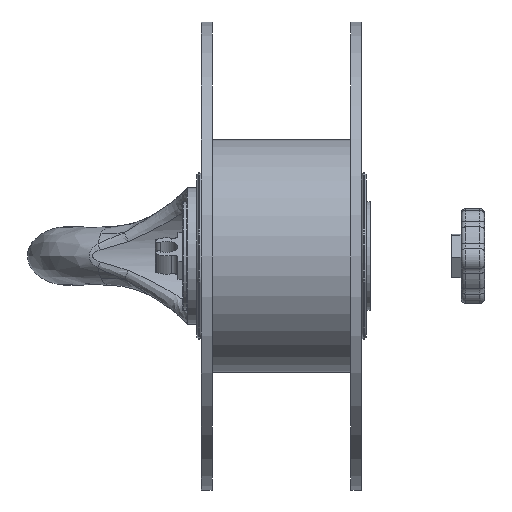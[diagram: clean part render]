
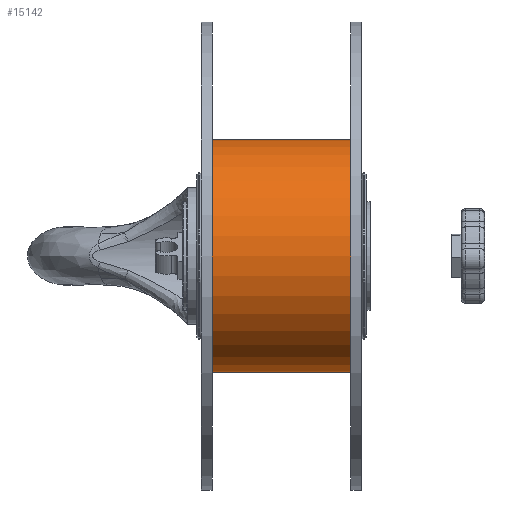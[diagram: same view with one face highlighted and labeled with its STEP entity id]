
A CAD part, front view. The second image highlights one B-rep face of the part: STEP entity #15142.
In plain terms, the highlighted cylindrical face has radius 49.5 mm (diameter 99 mm), a full revolution.
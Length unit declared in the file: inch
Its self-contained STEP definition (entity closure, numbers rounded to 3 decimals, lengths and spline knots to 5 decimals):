
#884=CYLINDRICAL_SURFACE('',#16932,1.94882);
#1947=FACE_OUTER_BOUND('',#2832,.T.);
#2832=EDGE_LOOP('',(#12987,#12988,#12989,#12990));
#3771=LINE('',#30575,#4720);
#4720=VECTOR('',#21000,1.94882);
#5603=CIRCLE('',#16926,1.94882);
#5606=CIRCLE('',#16931,1.94882);
#6896=VERTEX_POINT('',#30563);
#6899=VERTEX_POINT('',#30572);
#8943=EDGE_CURVE('',#6896,#6896,#5603,.T.);
#8947=EDGE_CURVE('',#6899,#6899,#5606,.T.);
#8948=EDGE_CURVE('',#6896,#6899,#3771,.T.);
#12987=ORIENTED_EDGE('',*,*,#8943,.F.);
#12988=ORIENTED_EDGE('',*,*,#8948,.T.);
#12989=ORIENTED_EDGE('',*,*,#8947,.T.);
#12990=ORIENTED_EDGE('',*,*,#8948,.F.);
#15142=ADVANCED_FACE('',(#1947),#884,.T.);
#16926=AXIS2_PLACEMENT_3D('',#30564,#20985,#20986);
#16931=AXIS2_PLACEMENT_3D('',#30573,#20996,#20997);
#16932=AXIS2_PLACEMENT_3D('',#30574,#20998,#20999);
#20985=DIRECTION('center_axis',(1.,0.,0.));
#20986=DIRECTION('ref_axis',(0.,0.,-1.));
#20996=DIRECTION('center_axis',(1.,0.,0.));
#20997=DIRECTION('ref_axis',(0.,0.,-1.));
#20998=DIRECTION('center_axis',(1.,0.,0.));
#20999=DIRECTION('ref_axis',(0.,1.,0.));
#21000=DIRECTION('',(-1.,0.,0.));
#30563=CARTESIAN_POINT('',(1.16142,-1.94882,0.));
#30564=CARTESIAN_POINT('Origin',(1.16142,0.,0.));
#30572=CARTESIAN_POINT('',(-1.16142,-1.94882,0.));
#30573=CARTESIAN_POINT('Origin',(-1.16142,0.,0.));
#30574=CARTESIAN_POINT('Origin',(0.,0.,0.));
#30575=CARTESIAN_POINT('',(0.,-1.94882,0.));
